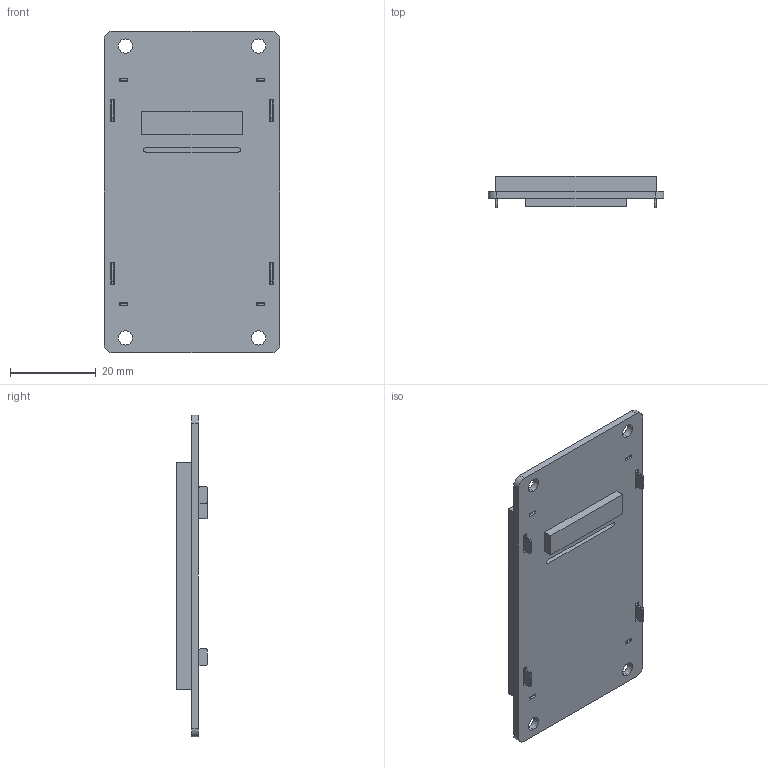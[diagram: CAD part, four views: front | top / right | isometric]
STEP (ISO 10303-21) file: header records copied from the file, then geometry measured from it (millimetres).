
FILE_DESCRIPTION((''),'2;1');
FILE_NAME('024_ASM','2020-02-10T',('Administrator'),(''),'PRO/ENGINEER BY PARAMETRIC TECHNOLOGY CORPORATION, 2014320','PRO/ENGINEER BY PARAMETRIC TECHNOLOGY CORPORATION, 2014320','');
FILE_SCHEMA(('CONFIG_CONTROL_DESIGN','SHAPE_APPEARANCE_LAYERS_GROUPS'));
Length unit declared in the file: millimetre
Products named in the file (4): LCM; TK; PCB; 024_ASM
Assembly tree (3 placements, depth 2):
  024_ASM
    LCM
    TK
    PCB
Bounding box: 40.9 x 7.2 x 75 mm (x, y, z)
Volume: 9801.4 mm3; surface area: 13289.5 mm2
Topology: 3 solids, 3 shells, 144 faces, 408 edges, 272 vertices
Faces by surface type: plane 110, cylinder 34
Entity records: 4839 total; most frequent: CARTESIAN_POINT 831, ORIENTED_EDGE 816, DIRECTION 778, EDGE_CURVE 408, VECTOR 340, LINE 340, VERTEX_POINT 272, AXIS2_PLACEMENT_3D 219
